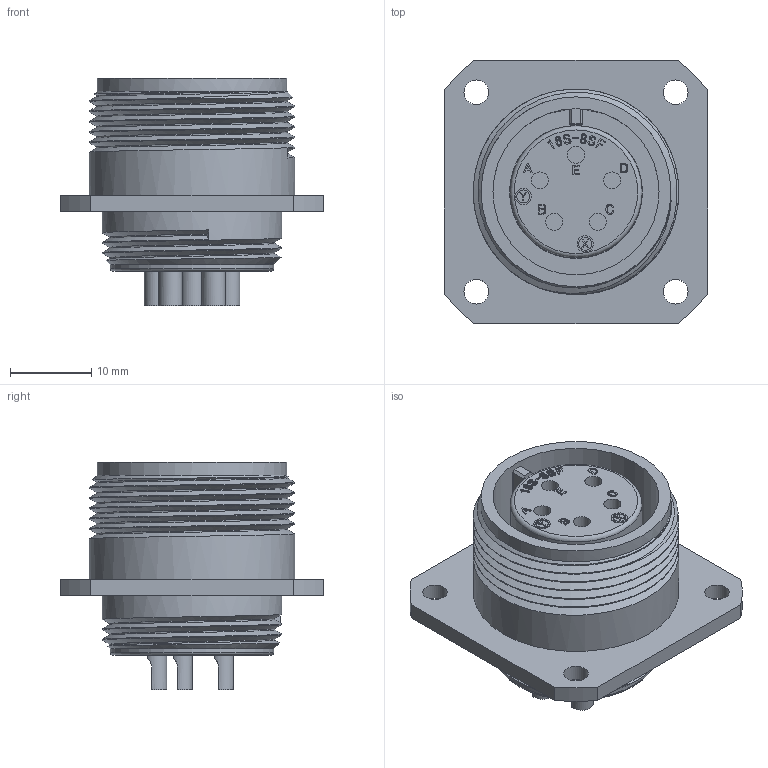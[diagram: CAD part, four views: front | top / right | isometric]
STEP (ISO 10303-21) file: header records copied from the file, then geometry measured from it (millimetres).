
FILE_DESCRIPTION (( 'STEP AP203' ), '1' );
FILE_NAME ('DMS3100A16S-8S(D263).STEP', '2022-01-24T07:32:59', ( '' ), ( '' ), 'SwSTEP 2.0', 'SolidWorks 2018', '' );
FILE_SCHEMA (( 'CONFIG_CONTROL_DESIGN' ));
Length unit declared in the file: millimetre
Products named in the file (1): DMS3100A16S-8S(D263)
Bounding box: 32.54 x 32.54 x 28.12 mm (x, y, z)
Volume: 9262.1 mm3; surface area: 7144.6 mm2
Topology: 1 solids, 1 shells, 690 faces, 1855 edges, 1236 vertices
Faces by surface type: bspline 318, plane 285, cylinder 71, torus 13, cone 3
Full cylindrical faces by diameter (mm): 1.6 x2, 2 x2, 2.11 x5, 3.05 x4, 13.87 x1, 16.25 x1, 16.41 x1, 17.76 x1, 20.16 x1, 20.5 x1, 22.19 x1, 23.43 x1, 25.36 x5
Entity records: 32562 total; most frequent: CARTESIAN_POINT 17763, ORIENTED_EDGE 3598, DIRECTION 1937, EDGE_CURVE 1799, VERTEX_POINT 1213, LINE 973, VECTOR 973, EDGE_LOOP 786
